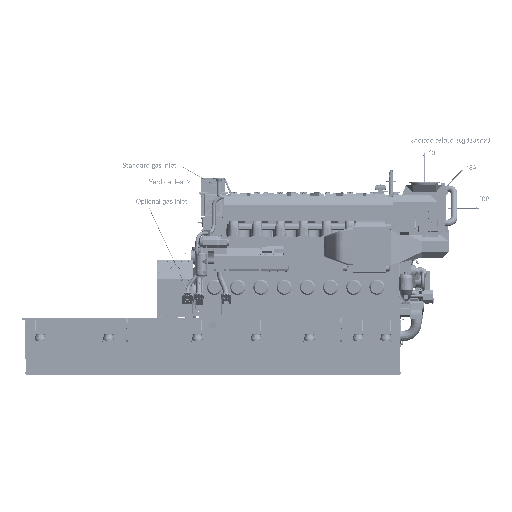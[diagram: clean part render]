
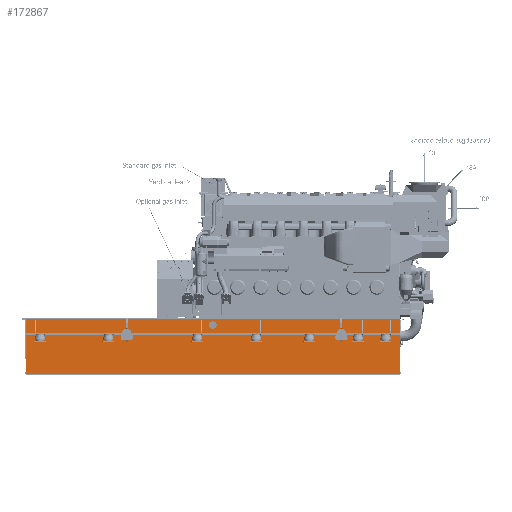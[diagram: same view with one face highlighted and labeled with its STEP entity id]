
A CAD part, front view. The second image highlights one B-rep face of the part: STEP entity #172867.
In plain terms, the highlighted planar face has unit normal (0, -1, 0) as drawn and (0, 1, 0) by its records, which use the part's own axes.
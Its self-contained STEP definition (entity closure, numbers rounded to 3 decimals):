
#46680=LINE('',#899839,#84677);
#46699=LINE('',#899915,#84696);
#46725=LINE('',#900014,#84722);
#46764=LINE('',#900103,#84761);
#46782=LINE('',#900165,#84779);
#46810=LINE('',#900233,#84807);
#46956=LINE('',#900645,#84953);
#46958=LINE('',#900647,#84955);
#46986=LINE('',#900695,#84983);
#46988=LINE('',#900697,#84985);
#47147=LINE('',#901146,#85144);
#47148=LINE('',#901148,#85145);
#47150=LINE('',#901157,#85147);
#47151=LINE('',#901159,#85148);
#47152=LINE('',#901161,#85149);
#47153=LINE('',#901162,#85150);
#47154=LINE('',#901164,#85151);
#47155=LINE('',#901166,#85152);
#47156=LINE('',#901167,#85153);
#47157=LINE('',#901169,#85154);
#47158=LINE('',#901171,#85155);
#47159=LINE('',#901173,#85156);
#47160=LINE('',#901174,#85157);
#47161=LINE('',#901176,#85158);
#84677=VECTOR('',#594651,1.);
#84696=VECTOR('',#594716,1.);
#84722=VECTOR('',#594798,1.);
#84761=VECTOR('',#594865,1.);
#84779=VECTOR('',#594913,1.);
#84807=VECTOR('',#594963,1.);
#84953=VECTOR('',#595275,1.);
#84955=VECTOR('',#595277,1.);
#84983=VECTOR('',#595309,1.);
#84985=VECTOR('',#595311,1.);
#85144=VECTOR('',#595764,1.);
#85145=VECTOR('',#595767,1.);
#85147=VECTOR('',#595779,1.);
#85148=VECTOR('',#595780,1.);
#85149=VECTOR('',#595781,1.);
#85150=VECTOR('',#595782,1.);
#85151=VECTOR('',#595783,1.);
#85152=VECTOR('',#595784,1.);
#85153=VECTOR('',#595785,1.);
#85154=VECTOR('',#595786,1.);
#85155=VECTOR('',#595787,1.);
#85156=VECTOR('',#595788,1.);
#85157=VECTOR('',#595789,1.);
#85158=VECTOR('',#595790,1.);
#131638=PLANE('',#510178);
#172867=ADVANCED_FACE('',(#197905,#197906,#197907),#131638,.F.);
#197905=FACE_BOUND('',#223057,.T.);
#197906=FACE_BOUND('',#223058,.T.);
#197907=FACE_BOUND('',#223059,.T.);
#223057=EDGE_LOOP('',(#309117,#309118,#309119,#309120,#309121,#309122,#309123,
#309124));
#223058=EDGE_LOOP('',(#309125,#309126,#309127,#309128,#309129,#309130,#309131,
#309132,#309133,#309134,#309135,#309136,#309137,#309138,#309139,#309140));
#223059=EDGE_LOOP('',(#309141));
#309117=ORIENTED_EDGE('',*,*,#444667,.T.);
#309118=ORIENTED_EDGE('',*,*,#444668,.T.);
#309119=ORIENTED_EDGE('',*,*,#444669,.T.);
#309120=ORIENTED_EDGE('',*,*,#444161,.T.);
#309121=ORIENTED_EDGE('',*,*,#444670,.T.);
#309122=ORIENTED_EDGE('',*,*,#444671,.F.);
#309123=ORIENTED_EDGE('',*,*,#444672,.T.);
#309124=ORIENTED_EDGE('',*,*,#444086,.F.);
#309125=ORIENTED_EDGE('',*,*,#444673,.T.);
#309126=ORIENTED_EDGE('',*,*,#444130,.T.);
#309127=ORIENTED_EDGE('',*,*,#444397,.F.);
#309128=ORIENTED_EDGE('',*,*,#444662,.F.);
#309129=ORIENTED_EDGE('',*,*,#444429,.F.);
#309130=ORIENTED_EDGE('',*,*,#444196,.T.);
#309131=ORIENTED_EDGE('',*,*,#444674,.T.);
#309132=ORIENTED_EDGE('',*,*,#444675,.F.);
#309133=ORIENTED_EDGE('',*,*,#444676,.T.);
#309134=ORIENTED_EDGE('',*,*,#444037,.F.);
#309135=ORIENTED_EDGE('',*,*,#444427,.F.);
#309136=ORIENTED_EDGE('',*,*,#444663,.F.);
#309137=ORIENTED_EDGE('',*,*,#444399,.F.);
#309138=ORIENTED_EDGE('',*,*,#443999,.F.);
#309139=ORIENTED_EDGE('',*,*,#444677,.T.);
#309140=ORIENTED_EDGE('',*,*,#444678,.T.);
#309141=ORIENTED_EDGE('',*,*,#444665,.T.);
#388880=VERTEX_POINT('',#899838);
#388881=VERTEX_POINT('',#899840);
#388914=VERTEX_POINT('',#899914);
#388915=VERTEX_POINT('',#899916);
#388959=VERTEX_POINT('',#900013);
#388960=VERTEX_POINT('',#900015);
#388995=VERTEX_POINT('',#900102);
#388996=VERTEX_POINT('',#900104);
#389024=VERTEX_POINT('',#900164);
#389025=VERTEX_POINT('',#900166);
#389053=VERTEX_POINT('',#900232);
#389054=VERTEX_POINT('',#900234);
#389236=VERTEX_POINT('',#900644);
#389237=VERTEX_POINT('',#900648);
#389254=VERTEX_POINT('',#900694);
#389255=VERTEX_POINT('',#900698);
#389399=VERTEX_POINT('',#901153);
#389400=VERTEX_POINT('',#901158);
#389401=VERTEX_POINT('',#901160);
#389402=VERTEX_POINT('',#901163);
#389403=VERTEX_POINT('',#901165);
#389404=VERTEX_POINT('',#901168);
#389405=VERTEX_POINT('',#901170);
#389406=VERTEX_POINT('',#901172);
#389407=VERTEX_POINT('',#901175);
#443999=EDGE_CURVE('',#388880,#388881,#46680,.T.);
#444037=EDGE_CURVE('',#388914,#388915,#46699,.T.);
#444086=EDGE_CURVE('',#388959,#388960,#46725,.T.);
#444130=EDGE_CURVE('',#388996,#388995,#46764,.T.);
#444161=EDGE_CURVE('',#389025,#389024,#46782,.T.);
#444196=EDGE_CURVE('',#389054,#389053,#46810,.T.);
#444397=EDGE_CURVE('',#389236,#388995,#46956,.T.);
#444399=EDGE_CURVE('',#388881,#389237,#46958,.T.);
#444427=EDGE_CURVE('',#389254,#388914,#46986,.T.);
#444429=EDGE_CURVE('',#389054,#389255,#46988,.T.);
#444662=EDGE_CURVE('',#389255,#389236,#47147,.T.);
#444663=EDGE_CURVE('',#389237,#389254,#47148,.T.);
#444665=EDGE_CURVE('',#389399,#389399,#479957,.T.);
#444667=EDGE_CURVE('',#388959,#389400,#47150,.T.);
#444668=EDGE_CURVE('',#389400,#389401,#47151,.T.);
#444669=EDGE_CURVE('',#389401,#389025,#47152,.T.);
#444670=EDGE_CURVE('',#389024,#389402,#47153,.T.);
#444671=EDGE_CURVE('',#389403,#389402,#47154,.T.);
#444672=EDGE_CURVE('',#389403,#388960,#47155,.T.);
#444673=EDGE_CURVE('',#389404,#388996,#47156,.T.);
#444674=EDGE_CURVE('',#389053,#389405,#47157,.T.);
#444675=EDGE_CURVE('',#389406,#389405,#47158,.T.);
#444676=EDGE_CURVE('',#389406,#388915,#47159,.T.);
#444677=EDGE_CURVE('',#388880,#389407,#47160,.T.);
#444678=EDGE_CURVE('',#389407,#389404,#47161,.T.);
#479957=CIRCLE('',#510175,80.);
#510175=AXIS2_PLACEMENT_3D('',#901152,#595772,#595773);
#510178=AXIS2_PLACEMENT_3D('',#901177,#595791,#595792);
#594651=DIRECTION('',(1.,0.,0.));
#594716=DIRECTION('',(1.,0.,0.));
#594798=DIRECTION('',(1.,0.,0.));
#594865=DIRECTION('',(1.,0.,0.));
#594913=DIRECTION('',(1.,0.,0.));
#594963=DIRECTION('',(1.,0.,0.));
#595275=DIRECTION('',(0.,0.,1.));
#595277=DIRECTION('',(0.,0.,1.));
#595309=DIRECTION('',(0.,0.,-1.));
#595311=DIRECTION('',(0.,0.,-1.));
#595764=DIRECTION('',(1.,0.,0.));
#595767=DIRECTION('',(-1.,0.,0.));
#595772=DIRECTION('',(0.,-1.,0.));
#595773=DIRECTION('',(1.,0.,0.));
#595779=DIRECTION('',(-0.707,0.,-0.707));
#595780=DIRECTION('',(0.,0.,-1.));
#595781=DIRECTION('',(0.707,0.,-0.707));
#595782=DIRECTION('',(0.707,0.,0.707));
#595783=DIRECTION('',(0.,0.,-1.));
#595784=DIRECTION('',(-0.707,0.,0.707));
#595785=DIRECTION('',(0.707,0.,-0.707));
#595786=DIRECTION('',(0.707,0.,0.707));
#595787=DIRECTION('',(0.,0.,-1.));
#595788=DIRECTION('',(-0.707,0.,0.707));
#595789=DIRECTION('',(-0.707,0.,-0.707));
#595790=DIRECTION('',(0.,0.,-1.));
#595791=DIRECTION('',(0.,-1.,0.));
#595792=DIRECTION('',(1.,0.,0.));
#899838=CARTESIAN_POINT('',(5884.5,900.,880.));
#899839=CARTESIAN_POINT('',(5869.5,900.,880.));
#899840=CARTESIAN_POINT('',(7900.,900.,880.));
#899914=CARTESIAN_POINT('',(0.,900.,880.));
#899915=CARTESIAN_POINT('',(0.,900.,880.));
#899916=CARTESIAN_POINT('',(1119.5,900.,880.));
#900013=CARTESIAN_POINT('',(1352.5,900.,880.));
#900014=CARTESIAN_POINT('',(1337.5,900.,880.));
#900015=CARTESIAN_POINT('',(5651.5,900.,880.));
#900102=CARTESIAN_POINT('',(7900.,900.,845.));
#900103=CARTESIAN_POINT('',(5869.5,900.,845.));
#900104=CARTESIAN_POINT('',(5884.5,900.,845.));
#900164=CARTESIAN_POINT('',(5651.5,900.,845.));
#900165=CARTESIAN_POINT('',(1337.5,900.,845.));
#900166=CARTESIAN_POINT('',(1352.5,900.,845.));
#900232=CARTESIAN_POINT('',(1119.5,900.,845.));
#900233=CARTESIAN_POINT('',(0.,900.,845.));
#900234=CARTESIAN_POINT('',(0.,900.,845.));
#900644=CARTESIAN_POINT('',(7900.,900.,15.));
#900645=CARTESIAN_POINT('',(7900.,900.,15.));
#900647=CARTESIAN_POINT('',(7900.,900.,15.));
#900648=CARTESIAN_POINT('',(7900.,900.,1180.));
#900694=CARTESIAN_POINT('',(0.,900.,1180.));
#900695=CARTESIAN_POINT('',(0.,900.,1180.));
#900697=CARTESIAN_POINT('',(0.,900.,1180.));
#900698=CARTESIAN_POINT('',(0.,900.,15.));
#901146=CARTESIAN_POINT('',(0.,900.,15.));
#901148=CARTESIAN_POINT('',(7900.,900.,1180.));
#901152=CARTESIAN_POINT('',(3950.,900.,1045.));
#901153=CARTESIAN_POINT('',(4030.,900.,1045.));
#901157=CARTESIAN_POINT('',(1352.5,900.,880.));
#901158=CARTESIAN_POINT('',(1337.5,900.,865.));
#901159=CARTESIAN_POINT('',(1337.5,900.,880.));
#901160=CARTESIAN_POINT('',(1337.5,900.,860.));
#901161=CARTESIAN_POINT('',(1337.5,900.,860.));
#901162=CARTESIAN_POINT('',(5666.5,900.,860.));
#901163=CARTESIAN_POINT('',(5666.5,900.,860.));
#901164=CARTESIAN_POINT('',(5666.5,900.,880.));
#901165=CARTESIAN_POINT('',(5666.5,900.,865.));
#901166=CARTESIAN_POINT('',(5651.5,900.,880.));
#901167=CARTESIAN_POINT('',(5869.5,900.,860.));
#901168=CARTESIAN_POINT('',(5869.5,900.,860.));
#901169=CARTESIAN_POINT('',(1134.5,900.,860.));
#901170=CARTESIAN_POINT('',(1134.5,900.,860.));
#901171=CARTESIAN_POINT('',(1134.5,900.,880.));
#901172=CARTESIAN_POINT('',(1134.5,900.,865.));
#901173=CARTESIAN_POINT('',(1119.5,900.,880.));
#901174=CARTESIAN_POINT('',(5884.5,900.,880.));
#901175=CARTESIAN_POINT('',(5869.5,900.,865.));
#901176=CARTESIAN_POINT('',(5869.5,900.,880.));
#901177=CARTESIAN_POINT('',(3950.,900.,1045.));
